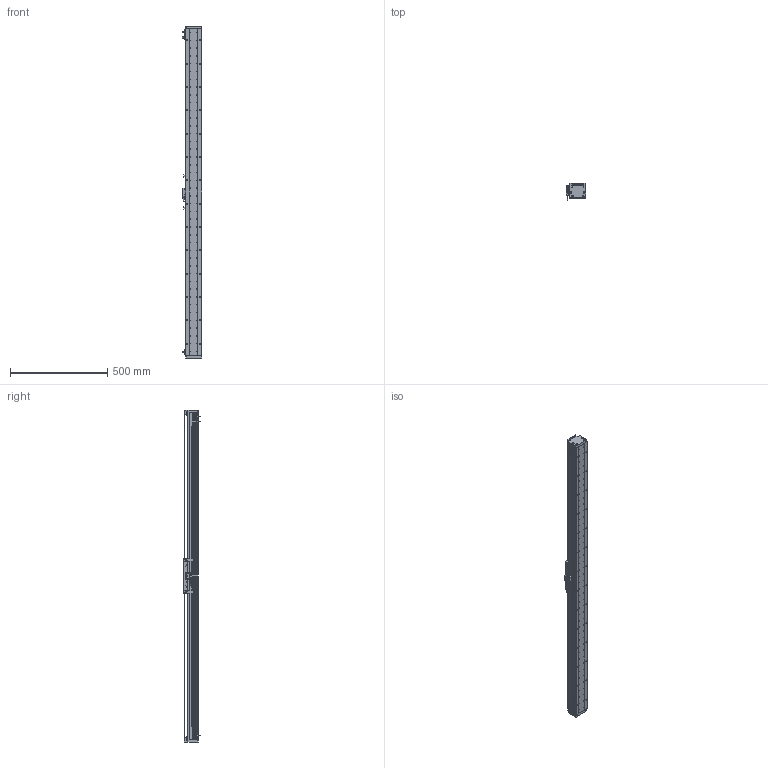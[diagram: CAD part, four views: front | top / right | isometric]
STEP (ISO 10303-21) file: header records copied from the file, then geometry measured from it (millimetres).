
FILE_DESCRIPTION (( 'STEP AP203' ), '1' );
FILE_NAME ('DA-A82-B2-T1460-C010-0.2 眻盄萇儂.STEP', '2025-08-13T03:10:10', ( '' ), ( '' ), 'SwSTEP 2.0', 'SolidWorks 2019', '' );
FILE_SCHEMA (( 'CONFIG_CONTROL_DESIGN' ));
Length unit declared in the file: millimetre
Products named in the file (23): 复件 DA95-B2-GT-00 滑块钢轨^AU82-M-00 一体化滑动台板; 复件 复件 17517-0000-003-00 钢带拉块^DA-A82-B2-T-C010-0.2; 葩璃 DA82-B2-DP-00 結え^AU82-M 幗紩賑怢; 葩璃 BKM01-W040-TRL^DA-A82-B2-T-C010-0.2; DA-A82-B2-T1460-C010-0.2 眻盄萇儂; 复件 复件 17517-0000-004-00  钢带压块^DA-A82-B2-T-C010-0.2(默认); 复件 复件 复件 DA82 钢带盖板^DA-A82-B2-T-C010-0.2(默认); 葩璃 葩璃 17517-0000-002-00 傷啣^DA-A82-B2-T-C010-0.2; IU-AU82-L-00 菁釱(L1680); AU82-M 幗紩賑怢; 复件 DA95-GT-T-00 底座钢轨^IU-AU82-L 底座导轨; 葩璃 鞠褒情蹟譫 M3^DA-A82-B2-T-C010-0.2; 葩璃 DA60-DMT-DTJ-00 黍杅芛盓殤^DA-A82-B2-T-C010-0.2; 复件 纯铜油杯 6x6mm^AU82-M 滚珠滑台; IU-AU82-L 菁釱絳寢; AU82-M-00 珨极趙賑雄怢啣; 葩璃 PM-T45^DA-A82-B2-T-C010-0.2; 葩璃 DMT-010 1米m 0.2M^DA-A82-B2-T-C010-0.2; AU82-HT-M-00 賑雄怢啣; 葩璃 XD-U-02  棠掑喜^DA-A82-B2-T-C010-0.2; DA-A60-GYP-DMT-00 光电感应片^DA-A82-B2-T-C010-0.2(默认); 复件 复件 DA82-XJ-00 缓冲橡胶^DA-A82-B2-T-C010-0.2; ｸｴｼ BKM02-W040-C1-TP-DA-3.0 ﾖｱﾏﾟｵ扈巐ｯﾗﾓ^DA-A82-B2-T-C010-0.2
Assembly tree (40 placements, depth 4):
  DA-A82-B2-T1460-C010-0.2 眻盄萇儂
    IU-AU82-L 菁釱絳寢
      IU-AU82-L-00 菁釱(L1680)
      复件 DA95-GT-T-00 底座钢轨^IU-AU82-L 底座导轨  x2
    AU82-M 幗紩賑怢
      AU82-M-00 珨极趙賑雄怢啣
        AU82-HT-M-00 賑雄怢啣
        复件 DA95-B2-GT-00 滑块钢轨^AU82-M-00 一体化滑动台板  x4
      葩璃 DA82-B2-DP-00 結え^AU82-M 幗紩賑怢  x2
      复件 纯铜油杯 6x6mm^AU82-M 滚珠滑台  x2
    葩璃 DA60-DMT-DTJ-00 黍杅芛盓殤^DA-A82-B2-T-C010-0.2
    葩璃 DMT-010 1米m 0.2M^DA-A82-B2-T-C010-0.2
    DA-A60-GYP-DMT-00 光电感应片^DA-A82-B2-T-C010-0.2(默认)  x2
    ｸｴｼ BKM02-W040-C1-TP-DA-3.0 ﾖｱﾏﾟｵ扈巐ｯﾗﾓ^DA-A82-B2-T-C010-0.2
    复件 复件 17517-0000-003-00 钢带拉块^DA-A82-B2-T-C010-0.2  x2
    复件 复件 DA82-XJ-00 缓冲橡胶^DA-A82-B2-T-C010-0.2  x2
    复件 复件 17517-0000-004-00  钢带压块^DA-A82-B2-T-C010-0.2(默认)  x2
    葩璃 葩璃 17517-0000-002-00 傷啣^DA-A82-B2-T-C010-0.2  x2
    复件 复件 复件 DA82 钢带盖板^DA-A82-B2-T-C010-0.2(默认)
    葩璃 BKM01-W040-TRL^DA-A82-B2-T-C010-0.2
    葩璃 PM-T45^DA-A82-B2-T-C010-0.2  x3
    葩璃 XD-U-02  棠掑喜^DA-A82-B2-T-C010-0.2
    葩璃 鞠褒情蹟譫 M3^DA-A82-B2-T-C010-0.2  x6
Bounding box: 98.95 x 87.2 x 1708 mm (x, y, z)
Volume: 4911978 mm3; surface area: 1489812.7 mm2
Topology: 44 solids, 68 shells, 2429 faces, 6452 edges, 4074 vertices
Faces by surface type: cylinder 1209, plane 930, cone 272, bspline 8, torus 8, sphere 2
Entity records: 67771 total; most frequent: CARTESIAN_POINT 15411, DIRECTION 10607, ORIENTED_EDGE 10008, EDGE_CURVE 5004, AXIS2_PLACEMENT_3D 4075, VERTEX_POINT 3258, EDGE_LOOP 2554, VECTOR 2457
